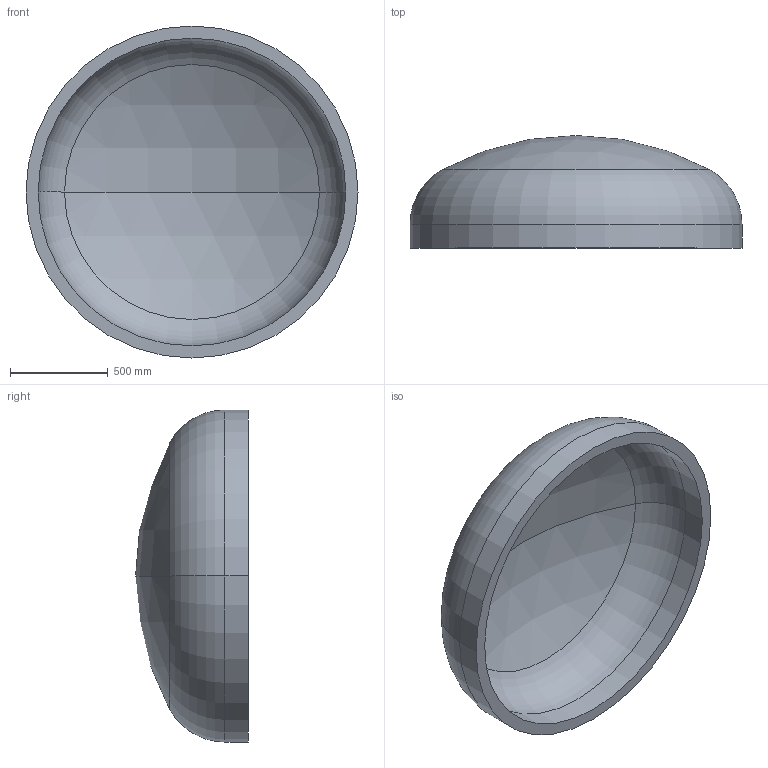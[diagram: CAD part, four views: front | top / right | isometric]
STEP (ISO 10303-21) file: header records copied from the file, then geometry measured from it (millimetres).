
FILE_DESCRIPTION (( 'STEP AP203' ), '1' );
FILE_NAME ('DIN 28013 Korbbogenform_-_Boden DIN 28013 - 1700 x 120 - I - s=62.step', '2016-07-01T11:56:24', ( '' ), ( '' ), 'SwSTEP 2.0', 'SolidWorks 2013', '' );
FILE_SCHEMA (( 'CONFIG_CONTROL_DESIGN' ));
Length unit declared in the file: millimetre
Products named in the file (1): DIN 28013 Korbbogenform_-_Boden DIN 28013 - 1700 x 120 - I - s=62
Bounding box: 1700 x 577 x 1700 mm (x, y, z)
Volume: 223911448.5 mm3; surface area: 7550046.3 mm2
Topology: 1 solids, 1 shells, 13 faces, 24 edges, 14 vertices
Faces by surface type: torus 4, cylinder 4, sphere 4, plane 1
Entity records: 407 total; most frequent: DIRECTION 72, CARTESIAN_POINT 52, ORIENTED_EDGE 48, AXIS2_PLACEMENT_3D 34, EDGE_CURVE 24, CIRCLE 20, VERTEX_POINT 14, EDGE_LOOP 14
